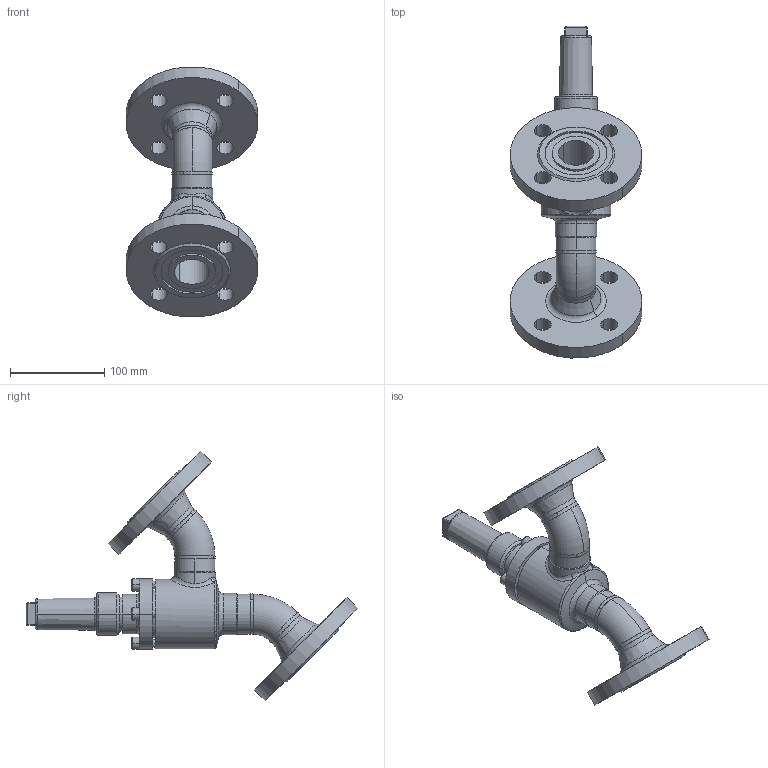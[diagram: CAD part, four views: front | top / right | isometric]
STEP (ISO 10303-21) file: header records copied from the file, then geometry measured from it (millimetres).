
FILE_DESCRIPTION (( 'STEP AP214' ), '1' );
FILE_NAME ('AVB16320D13-DN032_DIN-FL-N_PS40.STEP', '2006-04-27T12:20:54', ( 'Herr Grams' ), ( 'AWP GmbH' ), 'SwSTEP 2.0', 'SolidWorks 2002296', '' );
FILE_SCHEMA (( 'AUTOMOTIVE_DESIGN' ));
Length unit declared in the file: millimetre
Products named in the file (14): AVB16320D13-DN032_DIN-FL-N_PS40; AVB16300E13_Deck+Schr-DN25-32_Standard; Deckel16300E13-DN25-32_Standard; Zylinderschraube-DIN912_M 8x 25; Gehäuse-kpl16320-DN032_DIN_PS40_Standard; Flansch-DIN2635-Nut_PS40_DIN-Flansch-DN032_PS40-Nut; Gehäuse-kpl16300-DN032_R1_Standard; Gehäuse16400-DN032_Standard; bead16300-Geh-032-1_Standard; bead16300-Geh-032-2_Standard; Rohrbogen 45°_R1-Fase_Rohrbogen-DN032-45°; bead16320-DN032-2_Standard; bead16320-DN032-1_Standard; Kappe16402_DN010-32_Standard
Assembly tree (18 placements, depth 4):
  AVB16320D13-DN032_DIN-FL-N_PS40
    Gehäuse-kpl16320-DN032_DIN_PS40_Standard
      bead16320-DN032-2_Standard
      bead16320-DN032-1_Standard
      Flansch-DIN2635-Nut_PS40_DIN-Flansch-DN032_PS40-Nut  x2
      Gehäuse-kpl16300-DN032_R1_Standard
        Rohrbogen 45°_R1-Fase_Rohrbogen-DN032-45°  x2
        bead16300-Geh-032-1_Standard
        bead16300-Geh-032-2_Standard
        Gehäuse16400-DN032_Standard
    Kappe16402_DN010-32_Standard
    AVB16300E13_Deck+Schr-DN25-32_Standard
      Zylinderschraube-DIN912_M 8x 25  x4
      Deckel16300E13-DN25-32_Standard
Bounding box: 139.47 x 352.74 x 265.6 mm (x, y, z)
Volume: 859914.9 mm3; surface area: 210010.1 mm2
Topology: 15 solids, 15 shells, 331 faces, 759 edges, 474 vertices
Faces by surface type: cylinder 122, plane 88, cone 68, torus 35, bspline 18
Entity records: 54534 total; most frequent: CARTESIAN_POINT 48306, DIRECTION 1156, ORIENTED_EDGE 1094, EDGE_CURVE 547, AXIS2_PLACEMENT_3D 491, VERTEX_POINT 342, EDGE_LOOP 277, CIRCLE 250
